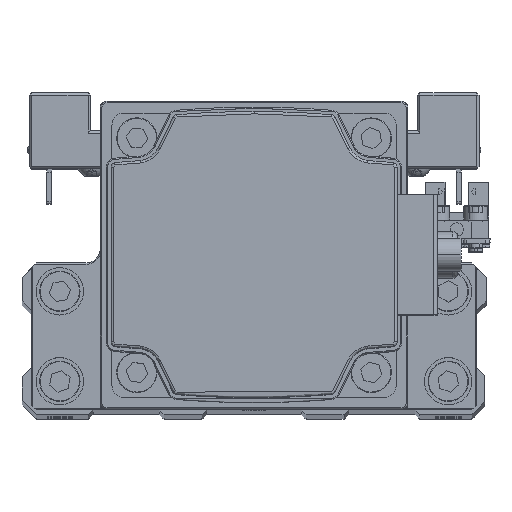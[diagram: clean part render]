
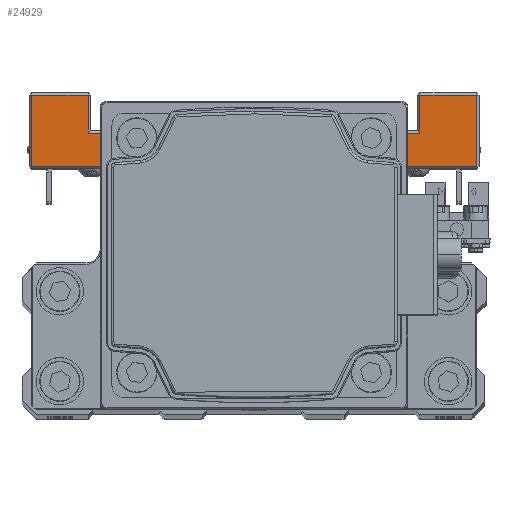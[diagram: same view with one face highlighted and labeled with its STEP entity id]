
A CAD part, top view. The second image highlights one B-rep face of the part: STEP entity #24929.
In plain terms, the highlighted planar face has unit normal (0, 0, 1) as drawn and (1, 0, 0) by its records, which use the part's own axes.
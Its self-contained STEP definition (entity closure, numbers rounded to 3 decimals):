
#313 = LINE ( 'NONE', #12789, #30654 ) ;
#1047 = CARTESIAN_POINT ( 'NONE',  ( 47., 15., -35. ) ) ;
#1185 = EDGE_CURVE ( 'NONE', #33442, #4517, #32862, .T. ) ;
#1513 = ORIENTED_EDGE ( 'NONE', *, *, #25109, .T. ) ;
#1563 = CARTESIAN_POINT ( 'NONE',  ( 47., 8., 47. ) ) ;
#2031 = CARTESIAN_POINT ( 'NONE',  ( 47., 7.5, 35. ) ) ;
#2262 = LINE ( 'NONE', #14740, #31611 ) ;
#2809 = CARTESIAN_POINT ( 'NONE',  ( 47., 7.5, 20. ) ) ;
#3060 = VECTOR ( 'NONE', #4097, 1000. ) ;
#3121 = LINE ( 'NONE', #15598, #36894 ) ;
#3590 = VERTEX_POINT ( 'NONE', #7681 ) ;
#4097 = DIRECTION ( 'NONE',  ( 0., 0., -1. ) ) ;
#4393 = VECTOR ( 'NONE', #23077, 1000. ) ;
#4517 = VERTEX_POINT ( 'NONE', #1047 ) ;
#4797 = CARTESIAN_POINT ( 'NONE',  ( 47., 7.5, -35. ) ) ;
#4880 = DIRECTION ( 'NONE',  ( 0., 0., 1. ) ) ;
#5550 = CARTESIAN_POINT ( 'NONE',  ( 47., 7.5, -20. ) ) ;
#6336 = VECTOR ( 'NONE', #4880, 1000. ) ;
#6519 = VERTEX_POINT ( 'NONE', #37149 ) ;
#6683 = VECTOR ( 'NONE', #22112, 1000. ) ;
#6941 = VERTEX_POINT ( 'NONE', #24988 ) ;
#6978 = EDGE_CURVE ( 'NONE', #6941, #33669, #37694, .T. ) ;
#7458 = CARTESIAN_POINT ( 'NONE',  ( 47., 15., 35. ) ) ;
#7504 = ORIENTED_EDGE ( 'NONE', *, *, #12509, .T. ) ;
#7601 = AXIS2_PLACEMENT_3D ( 'NONE', #5550, #18033, #30534 ) ;
#7681 = CARTESIAN_POINT ( 'NONE',  ( 47., 23., -47. ) ) ;
#8824 = DIRECTION ( 'NONE',  ( 0., 0., -1. ) ) ;
#9624 = CARTESIAN_POINT ( 'NONE',  ( 47., 7.5, 47. ) ) ;
#10584 = CARTESIAN_POINT ( 'NONE',  ( 47., 23., -20. ) ) ;
#10627 = LINE ( 'NONE', #23118, #39225 ) ;
#10832 = VERTEX_POINT ( 'NONE', #11325 ) ;
#11325 = CARTESIAN_POINT ( 'NONE',  ( 47., 8., -20. ) ) ;
#12509 = EDGE_CURVE ( 'NONE', #3590, #33442, #20440, .T. ) ;
#12789 = CARTESIAN_POINT ( 'NONE',  ( 47., 8., -47. ) ) ;
#14500 = DIRECTION ( 'NONE',  ( 0., 1., 0. ) ) ;
#14740 = CARTESIAN_POINT ( 'NONE',  ( 47., 15., -20. ) ) ;
#15283 = DIRECTION ( 'NONE',  ( 0., -1., 0. ) ) ;
#15441 = EDGE_CURVE ( 'NONE', #22662, #17528, #30860, .T. ) ;
#15598 = CARTESIAN_POINT ( 'NONE',  ( 47., 7.5, -47. ) ) ;
#15997 = CARTESIAN_POINT ( 'NONE',  ( 47., 23., 35. ) ) ;
#16408 = VECTOR ( 'NONE', #14500, 1000. ) ;
#17000 = EDGE_CURVE ( 'NONE', #4517, #35254, #2262, .T. ) ;
#17247 = ORIENTED_EDGE ( 'NONE', *, *, #20826, .T. ) ;
#17280 = DIRECTION ( 'NONE',  ( 0., -1., 0. ) ) ;
#17480 = ORIENTED_EDGE ( 'NONE', *, *, #17000, .T. ) ;
#17528 = VERTEX_POINT ( 'NONE', #24938 ) ;
#18033 = DIRECTION ( 'NONE',  ( -1., 0., 0. ) ) ;
#18458 = ORIENTED_EDGE ( 'NONE', *, *, #28612, .T. ) ;
#19067 = VECTOR ( 'NONE', #15283, 1000. ) ;
#19661 = LINE ( 'NONE', #32153, #3060 ) ;
#20086 = ORIENTED_EDGE ( 'NONE', *, *, #25672, .T. ) ;
#20440 = LINE ( 'NONE', #32948, #6336 ) ;
#20812 = CARTESIAN_POINT ( 'NONE',  ( 47., 8., -47. ) ) ;
#20826 = EDGE_CURVE ( 'NONE', #31505, #3590, #3121, .T. ) ;
#21115 = FACE_OUTER_BOUND ( 'NONE', #32636, .T. ) ;
#21594 = ORIENTED_EDGE ( 'NONE', *, *, #29654, .F. ) ;
#22112 = DIRECTION ( 'NONE',  ( 0., -1., 0. ) ) ;
#22662 = VERTEX_POINT ( 'NONE', #34814 ) ;
#23077 = DIRECTION ( 'NONE',  ( 0., 0., 1. ) ) ;
#23118 = CARTESIAN_POINT ( 'NONE',  ( 47., 7.5, -20. ) ) ;
#24381 = LINE ( 'NONE', #36899, #37321 ) ;
#24929 = ADVANCED_FACE ( 'NONE', ( #21115 ), #33617, .F. ) ;
#24938 = CARTESIAN_POINT ( 'NONE',  ( 47., -7.5, 20. ) ) ;
#24988 = CARTESIAN_POINT ( 'NONE',  ( 47., 23., 47. ) ) ;
#25109 = EDGE_CURVE ( 'NONE', #17528, #6519, #19661, .T. ) ;
#25277 = DIRECTION ( 'NONE',  ( 0., 0., -1. ) ) ;
#25672 = EDGE_CURVE ( 'NONE', #36563, #6941, #38671, .T. ) ;
#27238 = DIRECTION ( 'NONE',  ( 0., 0., 1. ) ) ;
#27273 = ORIENTED_EDGE ( 'NONE', *, *, #15441, .T. ) ;
#28100 = DIRECTION ( 'NONE',  ( 0., 1., 0. ) ) ;
#28612 = EDGE_CURVE ( 'NONE', #10832, #31505, #313, .T. ) ;
#29654 = EDGE_CURVE ( 'NONE', #10832, #6519, #10627, .T. ) ;
#30075 = LINE ( 'NONE', #2031, #16408 ) ;
#30534 = DIRECTION ( 'NONE',  ( 0., 0., 1. ) ) ;
#30654 = VECTOR ( 'NONE', #25277, 1000. ) ;
#30860 = LINE ( 'NONE', #2809, #19067 ) ;
#30874 = CARTESIAN_POINT ( 'NONE',  ( 47., 23., -35. ) ) ;
#31009 = EDGE_CURVE ( 'NONE', #35254, #36563, #30075, .T. ) ;
#31505 = VERTEX_POINT ( 'NONE', #20812 ) ;
#31611 = VECTOR ( 'NONE', #27238, 1000. ) ;
#31815 = ORIENTED_EDGE ( 'NONE', *, *, #1185, .T. ) ;
#32153 = CARTESIAN_POINT ( 'NONE',  ( 47., -7.5, -20. ) ) ;
#32636 = EDGE_LOOP ( 'NONE', ( #21594, #18458, #17247, #7504, #31815, #17480, #39185, #20086, #37209, #40338, #27273, #1513 ) ) ;
#32862 = LINE ( 'NONE', #4797, #33563 ) ;
#32948 = CARTESIAN_POINT ( 'NONE',  ( 47., 23., -20. ) ) ;
#33442 = VERTEX_POINT ( 'NONE', #30874 ) ;
#33563 = VECTOR ( 'NONE', #17280, 1000. ) ;
#33617 = PLANE ( 'NONE',  #7601 ) ;
#33669 = VERTEX_POINT ( 'NONE', #1563 ) ;
#34697 = EDGE_CURVE ( 'NONE', #33669, #22662, #24381, .T. ) ;
#34814 = CARTESIAN_POINT ( 'NONE',  ( 47., 8., 20. ) ) ;
#35254 = VERTEX_POINT ( 'NONE', #7458 ) ;
#35631 = DIRECTION ( 'NONE',  ( 0., -1., 0. ) ) ;
#36563 = VERTEX_POINT ( 'NONE', #15997 ) ;
#36894 = VECTOR ( 'NONE', #28100, 1000. ) ;
#36899 = CARTESIAN_POINT ( 'NONE',  ( 47., 8., 20. ) ) ;
#37149 = CARTESIAN_POINT ( 'NONE',  ( 47., -7.5, -20. ) ) ;
#37209 = ORIENTED_EDGE ( 'NONE', *, *, #6978, .T. ) ;
#37321 = VECTOR ( 'NONE', #8824, 1000. ) ;
#37694 = LINE ( 'NONE', #9624, #6683 ) ;
#38671 = LINE ( 'NONE', #10584, #4393 ) ;
#39185 = ORIENTED_EDGE ( 'NONE', *, *, #31009, .T. ) ;
#39225 = VECTOR ( 'NONE', #35631, 1000. ) ;
#40338 = ORIENTED_EDGE ( 'NONE', *, *, #34697, .T. ) ;
